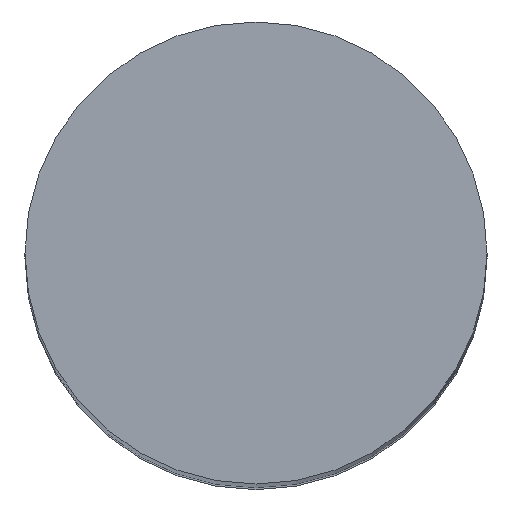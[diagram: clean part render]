
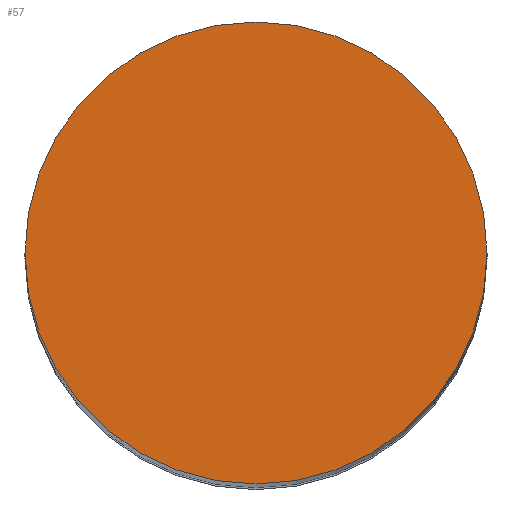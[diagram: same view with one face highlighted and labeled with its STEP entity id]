
A CAD part, top view. The second image highlights one B-rep face of the part: STEP entity #57.
In plain terms, the highlighted planar face has unit normal (0, 0, 1).
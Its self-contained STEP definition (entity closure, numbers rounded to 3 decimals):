
#57=ADVANCED_FACE('',(#111),#112,.T.);
#111=FACE_OUTER_BOUND('',#158,.T.);
#112=PLANE('',#159);
#158=EDGE_LOOP('',(#247,#248));
#159=AXIS2_PLACEMENT_3D('',#249,#250,#251);
#247=ORIENTED_EDGE('',*,*,#293,.T.);
#248=ORIENTED_EDGE('',*,*,#263,.T.);
#249=CARTESIAN_POINT('',(0.0,0.0,0.0));
#250=DIRECTION('',(0.0,0.0,1.0));
#251=DIRECTION('',(1.0,0.0,0.0));
#263=EDGE_CURVE('',#301,#298,#302,.T.);
#293=EDGE_CURVE('',#298,#301,#345,.T.);
#298=VERTEX_POINT('',#350);
#301=VERTEX_POINT('',#354);
#302=CIRCLE('',#355,4.0);
#345=CIRCLE('',#403,4.0);
#350=CARTESIAN_POINT('',(-4.0,0.0,0.0));
#354=CARTESIAN_POINT('',(4.0,0.,0.0));
#355=AXIS2_PLACEMENT_3D('',#408,#409,#410);
#403=AXIS2_PLACEMENT_3D('',#461,#462,#463);
#408=CARTESIAN_POINT('',(0.0,0.0,0.0));
#409=DIRECTION('',(0.0,0.0,1.0));
#410=DIRECTION('',(-1.0,0.0,0.0));
#461=CARTESIAN_POINT('',(0.0,0.0,0.0));
#462=DIRECTION('',(0.0,0.0,1.0));
#463=DIRECTION('',(-1.0,0.0,0.0));
